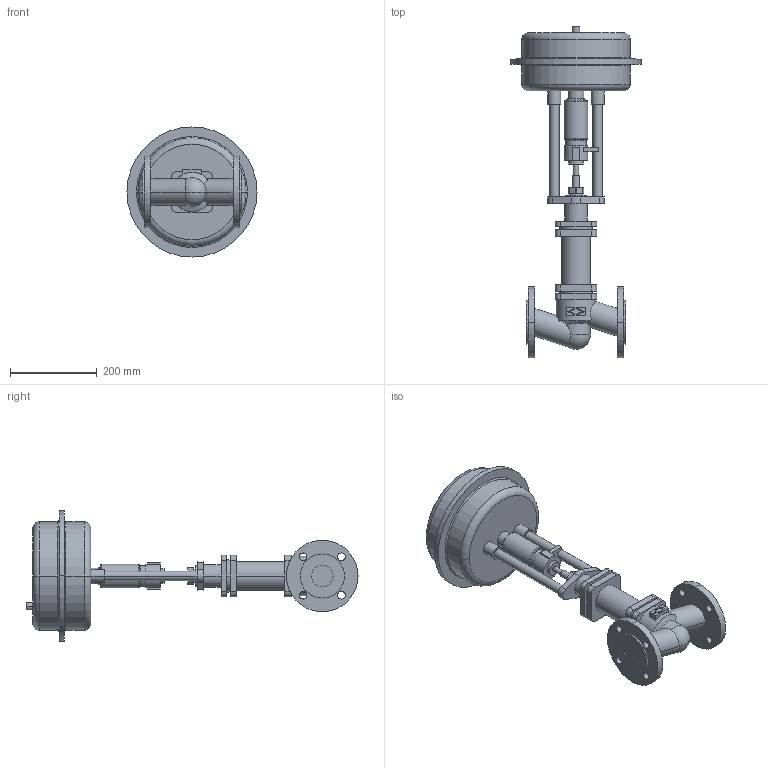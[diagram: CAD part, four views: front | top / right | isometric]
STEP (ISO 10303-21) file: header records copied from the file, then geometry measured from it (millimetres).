
FILE_DESCRIPTION(('OneSpaceDesigner STEP Export'),'2;1');
FILE_NAME('c000002079.stp','2005-12-12T11:15:18',(''),(''),'OneSpace Designer STEP processor for AP203 (Solid Model)','OneSpace Designer 13.20A 18-Aug-2005 (C) CoCreate Software GmbH','');
FILE_SCHEMA(('CONFIG_CONTROL_DESIGN'));
Length unit declared in the file: millimetre
Products named in the file (1): 1
Bounding box: 300 x 766.1 x 300 mm (x, y, z)
Volume: 10119007.3 mm3; surface area: 566160.5 mm2
Topology: 1 solids, 1 shells, 218 faces, 533 edges, 347 vertices
Faces by surface type: cylinder 104, plane 90, torus 16, cone 6, sphere 2
Entity records: 6143 total; most frequent: CARTESIAN_POINT 1233, ORIENTED_EDGE 1062, DIRECTION 925, EDGE_CURVE 531, VERTEX_POINT 347, AXIS2_PLACEMENT_3D 332, EDGE_LOOP 270, VECTOR 261
